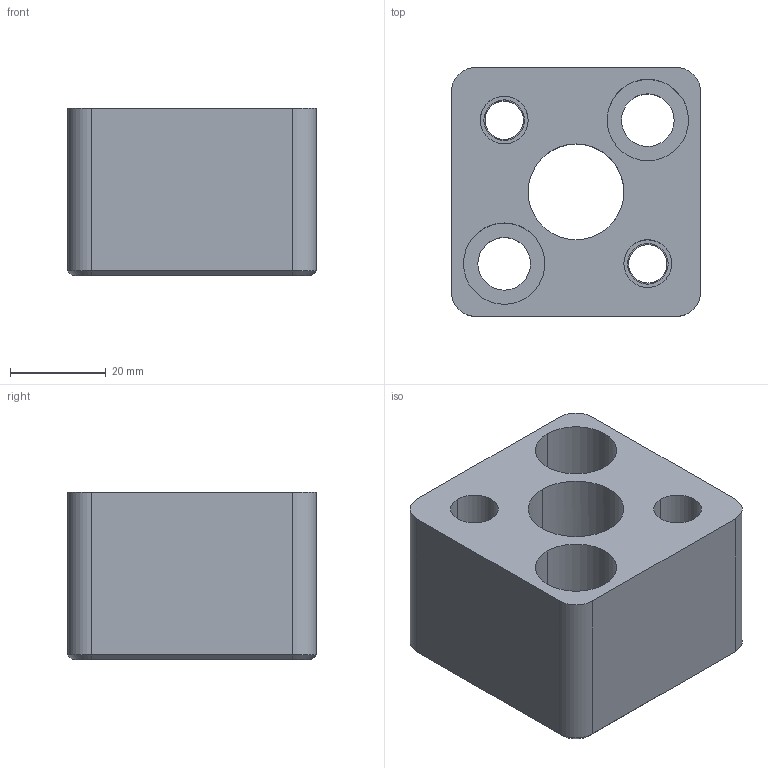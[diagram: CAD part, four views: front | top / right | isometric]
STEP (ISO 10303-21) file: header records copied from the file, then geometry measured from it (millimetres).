
FILE_DESCRIPTION(/* description */ (''),/* implementation_level */ '2;1');
FILE_NAME(/* name */ '3d_hsa-fn20_04185_r00.stp',/* time_stamp */ '2011-01-10T14:14:36+09:00',/* author */ ('MISUMI'),/* organization */ (''),/* preprocessor_version */ 'ST-DEVELOPER v11',/* originating_system */ 'UGS - NX 5.0',/* authorisation */ '');
FILE_SCHEMA (('CONFIG_CONTROL_DESIGN'));
Length unit declared in the file: millimetre
Products named in the file (1): 3d_hsa-fn20_04185_r00
Bounding box: 52 x 52 x 35 mm (x, y, z)
Volume: 65335.8 mm3; surface area: 18417.7 mm2
Topology: 1 solids, 1 shells, 55 faces, 132 edges, 85 vertices
Faces by surface type: cylinder 29, plane 20, cone 6
Entity records: 1733 total; most frequent: DIRECTION 303, CARTESIAN_POINT 293, ORIENTED_EDGE 264, EDGE_CURVE 132, AXIS2_PLACEMENT_3D 121, VERTEX_POINT 85, EDGE_LOOP 71, CIRCLE 65
